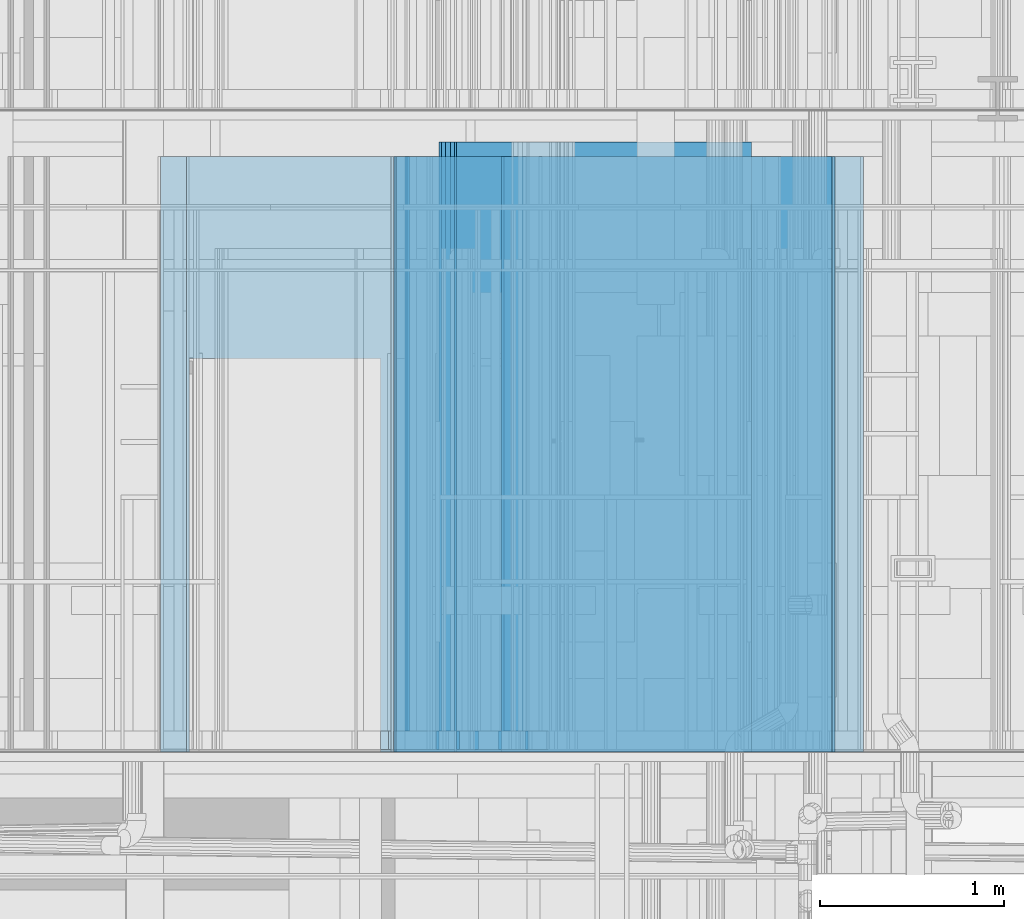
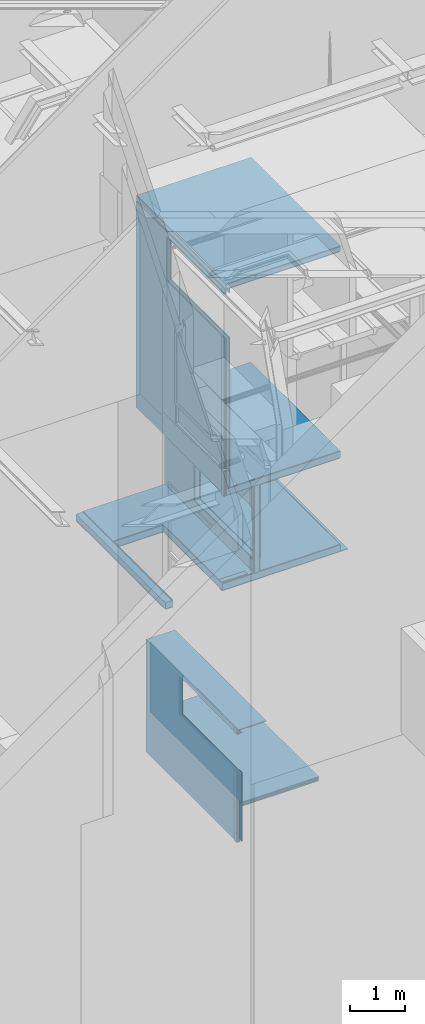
# One storey, part 67 of 583: 33 building element parts, 7 openings, 8 elements without a shape of their own.
"""IFC2X3 building model written with IfcOpenShell, lengths in metres."""

from ifc_helpers import new_model, entity, si_unit, converted_unit, derived_unit, money_unit, direction, frame, frame_2d, origin_with_axes, place, context, subcontext, project, spatial, polyline, rectangle, outline, extrude, material, type_object, element, aggregate, save


model = new_model("IFC2X3")

# Units and contexts
model_context = context("Model", 3, precision=1e-05, world=origin_with_axes(), true_north=direction((0.0, 1.0)))
body_context = subcontext(model_context, "Body", "Model", "MODEL_VIEW", scale=1.0)
ifc_project = project(units=[si_unit("LENGTHUNIT", "METRE"), si_unit("AREAUNIT", "SQUARE_METRE"), si_unit("VOLUMEUNIT", "CUBIC_METRE"), si_unit("ABSORBEDDOSEUNIT", "GRAY"), si_unit("AMOUNTOFSUBSTANCEUNIT", "MOLE"), si_unit("DOSEEQUIVALENTUNIT", "SIEVERT"), si_unit("ELECTRICCAPACITANCEUNIT", "FARAD"), si_unit("ELECTRICCHARGEUNIT", "COULOMB"), si_unit("ELECTRICCONDUCTANCEUNIT", "SIEMENS"), si_unit("ELECTRICCURRENTUNIT", "AMPERE"), si_unit("ELECTRICRESISTANCEUNIT", "OHM"), si_unit("ELECTRICVOLTAGEUNIT", "VOLT"), si_unit("ENERGYUNIT", "JOULE"), si_unit("FORCEUNIT", "NEWTON"), si_unit("FREQUENCYUNIT", "HERTZ"), si_unit("ILLUMINANCEUNIT", "LUX"), si_unit("INDUCTANCEUNIT", "HENRY"), si_unit("LUMINOUSFLUXUNIT", "LUMEN"), si_unit("LUMINOUSINTENSITYUNIT", "CANDELA"), si_unit("MAGNETICFLUXDENSITYUNIT", "TESLA"), si_unit("MAGNETICFLUXUNIT", "WEBER"), si_unit("MASSUNIT", "GRAM"), converted_unit("PLANEANGLEUNIT", "degree", entity("IfcReal", 0.0174532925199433), si_unit("PLANEANGLEUNIT", "RADIAN"), dimensions=[0, 0, 0, 0, 0, 0, 0]), si_unit("POWERUNIT", "WATT"), si_unit("PRESSUREUNIT", "PASCAL"), si_unit("RADIOACTIVITYUNIT", "BECQUEREL"), si_unit("SOLIDANGLEUNIT", "STERADIAN"), si_unit("THERMODYNAMICTEMPERATUREUNIT", "KELVIN"), si_unit("TIMEUNIT", "SECOND"), derived_unit("ACCELERATIONUNIT", [(si_unit("LENGTHUNIT", "METRE"), 1), (si_unit("TIMEUNIT", "SECOND"), -2)]), derived_unit("ANGULARVELOCITYUNIT", [(converted_unit("PLANEANGLEUNIT", "degree", entity("IfcReal", 0.0174532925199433), si_unit("PLANEANGLEUNIT", "RADIAN"), dimensions=[0, 0, 0, 0, 0, 0, 0]), 1), (si_unit("TIMEUNIT", "SECOND"), -1)]), derived_unit("CURVATUREUNIT", [(converted_unit("PLANEANGLEUNIT", "degree", entity("IfcReal", 0.0174532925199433), si_unit("PLANEANGLEUNIT", "RADIAN"), dimensions=[0, 0, 0, 0, 0, 0, 0]), 1), (si_unit("LENGTHUNIT", "METRE"), -1)]), derived_unit("DYNAMICVISCOSITYUNIT", [(si_unit("PRESSUREUNIT", "PASCAL"), 1), (si_unit("TIMEUNIT", "SECOND"), 1)]), derived_unit("HEATFLUXDENSITYUNIT", [(si_unit("POWERUNIT", "WATT"), 1), (si_unit("LENGTHUNIT", "METRE"), -2)]), derived_unit("HEATINGVALUEUNIT", [(si_unit("ENERGYUNIT", "JOULE"), 1), (si_unit("MASSUNIT", "GRAM"), -1)]), derived_unit("INTEGERCOUNTRATEUNIT", [(si_unit("TIMEUNIT", "SECOND"), -1)]), derived_unit("IONCONCENTRATIONUNIT", [(si_unit("MASSUNIT", "GRAM"), 1), (si_unit("VOLUMEUNIT", "CUBIC_METRE"), -1)]), derived_unit("ISOTHERMALMOISTURECAPACITYUNIT", [(si_unit("VOLUMEUNIT", "CUBIC_METRE"), 1), (si_unit("MASSUNIT", "GRAM"), -1)]), derived_unit("KINEMATICVISCOSITYUNIT", [(si_unit("AREAUNIT", "SQUARE_METRE"), 1), (si_unit("TIMEUNIT", "SECOND"), -1)]), derived_unit("LINEARFORCEUNIT", [(si_unit("FORCEUNIT", "NEWTON"), 1), (si_unit("LENGTHUNIT", "METRE"), -1)]), derived_unit("LINEARMOMENTUNIT", [(si_unit("FORCEUNIT", "NEWTON"), 1), (si_unit("LENGTHUNIT", "METRE"), -1)]), derived_unit("LINEARSTIFFNESSUNIT", [(si_unit("FORCEUNIT", "NEWTON"), 1), (si_unit("LENGTHUNIT", "METRE"), -1)]), derived_unit("LINEARVELOCITYUNIT", [(si_unit("LENGTHUNIT", "METRE"), 1), (si_unit("TIMEUNIT", "SECOND"), -1)]), derived_unit("LUMINOUSINTENSITYDISTRIBUTIONUNIT", [(si_unit("LUMINOUSINTENSITYUNIT", "CANDELA"), 1), (si_unit("LUMINOUSFLUXUNIT", "LUMEN"), -1)]), derived_unit("MASSDENSITYUNIT", [(si_unit("MASSUNIT", "GRAM"), 1), (si_unit("VOLUMEUNIT", "CUBIC_METRE"), -1)]), derived_unit("MASSFLOWRATEUNIT", [(si_unit("MASSUNIT", "GRAM"), 1), (si_unit("TIMEUNIT", "SECOND"), -1)]), derived_unit("MASSPERLENGTHUNIT", [(si_unit("MASSUNIT", "GRAM"), 1), (si_unit("LENGTHUNIT", "METRE"), -1)]), derived_unit("MODULUSOFELASTICITYUNIT", [(si_unit("FORCEUNIT", "NEWTON"), 1), (si_unit("AREAUNIT", "SQUARE_METRE"), -1)]), derived_unit("MODULUSOFLINEARSUBGRADEREACTIONUNIT", [(si_unit("FORCEUNIT", "NEWTON"), 1), (si_unit("LENGTHUNIT", "METRE"), -2)]), derived_unit("MODULUSOFROTATIONALSUBGRADEREACTIONUNIT", [(si_unit("FORCEUNIT", "NEWTON"), 1), (si_unit("LENGTHUNIT", "METRE"), 1)]), derived_unit("MODULUSOFSUBGRADEREACTIONUNIT", [(si_unit("FORCEUNIT", "NEWTON"), 1), (si_unit("VOLUMEUNIT", "CUBIC_METRE"), -1)]), derived_unit("MOISTUREDIFFUSIVITYUNIT", [(si_unit("VOLUMEUNIT", "CUBIC_METRE"), 1), (si_unit("TIMEUNIT", "SECOND"), -1)]), derived_unit("MOLECULARWEIGHTUNIT", [(si_unit("MASSUNIT", "GRAM"), 1), (si_unit("AMOUNTOFSUBSTANCEUNIT", "MOLE"), -1)]), derived_unit("PLANARFORCEUNIT", [(si_unit("FORCEUNIT", "NEWTON"), 1), (si_unit("LENGTHUNIT", "METRE"), -2)]), derived_unit("ROTATIONALFREQUENCYUNIT", [(si_unit("TIMEUNIT", "SECOND"), -1)]), derived_unit("ROTATIONALMASSUNIT", [(si_unit("MASSUNIT", "GRAM"), 1), (si_unit("LENGTHUNIT", "METRE"), 2)]), derived_unit("ROTATIONALSTIFFNESSUNIT", [(si_unit("FORCEUNIT", "NEWTON"), 1), (si_unit("LENGTHUNIT", "METRE"), 1), (converted_unit("PLANEANGLEUNIT", "degree", entity("IfcReal", 0.0174532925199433), si_unit("PLANEANGLEUNIT", "RADIAN"), dimensions=[0, 0, 0, 0, 0, 0, 0]), -1)]), derived_unit("SECTIONAREAINTEGRALUNIT", [(si_unit("LENGTHUNIT", "METRE"), 5)]), derived_unit("SECTIONMODULUSUNIT", [(si_unit("LENGTHUNIT", "METRE"), 3)]), derived_unit("SHEARMODULUSUNIT", [(si_unit("FORCEUNIT", "NEWTON"), 1), (si_unit("AREAUNIT", "SQUARE_METRE"), -1)]), derived_unit("SOUNDPOWERUNIT", [(si_unit("ENERGYUNIT", "JOULE"), 1), (si_unit("TIMEUNIT", "SECOND"), -1)]), derived_unit("SPECIFICHEATCAPACITYUNIT", [(si_unit("FORCEUNIT", "NEWTON"), 1), (si_unit("MASSUNIT", "GRAM"), -1), (si_unit("THERMODYNAMICTEMPERATUREUNIT", "KELVIN"), -1)]), derived_unit("TEMPERATUREGRADIENTUNIT", [(si_unit("THERMODYNAMICTEMPERATUREUNIT", "KELVIN"), 1), (si_unit("LENGTHUNIT", "METRE"), -1)]), derived_unit("THERMALADMITTANCEUNIT", [(si_unit("POWERUNIT", "WATT"), 1), (si_unit("AREAUNIT", "SQUARE_METRE"), -1), (si_unit("THERMODYNAMICTEMPERATUREUNIT", "KELVIN"), -1)]), derived_unit("THERMALCONDUCTANCEUNIT", [(si_unit("POWERUNIT", "WATT"), 1), (si_unit("LENGTHUNIT", "METRE"), -1), (si_unit("THERMODYNAMICTEMPERATUREUNIT", "KELVIN"), -1)]), derived_unit("THERMALEXPANSIONCOEFFICIENTUNIT", [(si_unit("THERMODYNAMICTEMPERATUREUNIT", "KELVIN"), -1)]), derived_unit("THERMALRESISTANCEUNIT", [(si_unit("AREAUNIT", "SQUARE_METRE"), 1), (si_unit("POWERUNIT", "WATT"), -1)]), derived_unit("THERMALTRANSMITTANCEUNIT", [(si_unit("POWERUNIT", "WATT"), 1), (si_unit("AREAUNIT", "SQUARE_METRE"), -1), (si_unit("THERMODYNAMICTEMPERATUREUNIT", "KELVIN"), -1)]), derived_unit("TORQUEUNIT", [(si_unit("FORCEUNIT", "NEWTON"), 1), (si_unit("LENGTHUNIT", "METRE"), 1)]), derived_unit("VAPORPERMEABILITYUNIT", [(si_unit("MASSUNIT", "GRAM"), 1), (si_unit("TIMEUNIT", "SECOND"), -1)]), derived_unit("VOLUMETRICFLOWRATEUNIT", [(si_unit("VOLUMEUNIT", "CUBIC_METRE"), 1), (si_unit("TIMEUNIT", "SECOND"), -1)]), derived_unit("WARPINGCONSTANTUNIT", [(si_unit("LENGTHUNIT", "METRE"), 6)]), derived_unit("WARPINGMOMENTUNIT", [(si_unit("FORCEUNIT", "NEWTON"), 1), (si_unit("LENGTHUNIT", "METRE"), 2)]), money_unit("GBP")], contexts=[model_context])

# Site, building, storey
site_placement = place(None, origin_with_axes())
site = spatial("IfcSite", under=ifc_project, at=site_placement, Name="Site", CompositionType="ELEMENT")
building_placement = place(site_placement, origin_with_axes())
building = spatial("IfcBuilding", under=site, at=building_placement, Name="Building01", CompositionType="ELEMENT")
storey_placement = place(building_placement, frame((0.0, 0.0, 20.78), z_axis=(0.0, 0.0, 1.0), x_axis=(1.0, 0.0, 0.0)))
storey = spatial("IfcBuildingStorey", under=building, at=storey_placement, Name="RL", CompositionType="ELEMENT", Elevation=20.78)

# Wall, openings, building element parts
wall_type_1 = type_object("IfcWallType", Name="SHE_A-Walls_Type03a_BlockworkWall_170mm", PredefinedType="NOTDEFINED")
wall_1_placement = place(storey_placement, frame((8.665, 5.15, -11.705), z_axis=(0.0, 1.0, 0.0), x_axis=(-1.0, 0.0, 0.0)))
wall_1 = element("IfcWall", 1, at=wall_1_placement, inside=storey, type_object=wall_type_1, Name="4B", ObjectType="SHE_A-Walls_Type03a_BlockworkWall_170mm")
opening_1_placement = place(wall_1_placement, frame((2.527281, 0.175, 0.0), z_axis=(0.0, 0.0, 1.0), x_axis=(1.0, 0.0, 0.0)))
element("IfcOpeningElement", 2, at=opening_1_placement, cuts=wall_1, Name="Opening", ObjectType="Opening", context=body_context, shape_type="SweptSolid", body=[
    extrude(rectangle(XDim=0.984, YDim=2.142, at=frame_2d((-0.492, 1.071), x_axis=(1.0, 0.0))), frame((0.0, -5.388555, 0.0), z_axis=(0.0, 1.0, 0.0), x_axis=(-1.0, 0.0, 0.0)), (0.0, 0.0, 1.0), 10.777109),
])
opening_2_placement = place(wall_1_placement, frame((2.473, 0.155, 0.0), z_axis=(0.0, 0.0, 1.0), x_axis=(1.0, 0.0, 0.0)))
element("IfcOpeningElement", 3, at=opening_2_placement, cuts=wall_1, Name="Opening", ObjectType="Opening", context=body_context, shape_type="SweptSolid", body=[
    extrude(rectangle(XDim=2.142, YDim=0.984, at=frame_2d((-0.492, 1.071), x_axis=(0.0, -1.0))), frame((0.0, -5.387814, 0.0), z_axis=(0.0, 1.0, 0.0), x_axis=(-1.0, 0.0, 0.0)), (0.0, 0.0, 1.0), 10.775627),
])
ifc_material_1 = material(Name="A_BSUK_WallsInternal_Block")
placement_1 = place(wall_1_placement, origin_with_axes())
building_element_part_1 = element("IfcBuildingElementPart", 4, at=placement_1, material=ifc_material_1, Name="1", context=body_context, shape_type="SweptSolid", body=[
    extrude(rectangle(XDim=3.67, YDim=0.14, at=frame_2d((1.835, 0.07), x_axis=(-1.0, 0.0))), origin_with_axes(), (0.0, 0.0, 1.0), 3.24),
])
ifc_material_2 = material(Name="A_BSUK_Walls_Timber")
building_element_part_2 = element("IfcBuildingElementPart", 5, at=placement_1, material=ifc_material_2, Name="2", context=body_context, shape_type="SweptSolid", body=[
    extrude(outline(polyline([(3.5, 0.17), (1.940919, 0.17), (1.955919, 0.155), (3.5, 0.155), (3.5, 0.17)])), frame((0.0, 0.0, 0.015), z_axis=(0.0, 0.0, 1.0), x_axis=(1.0, 0.0, 0.0)), (0.0, 0.0, 1.0), 0.1),
])
ifc_material_3 = material(Name="A_BSUK_WallInternal_Finishes_Plaster")
building_element_part_3 = element("IfcBuildingElementPart", 6, at=placement_1, material=ifc_material_3, Name="3", context=body_context, shape_type="SweptSolid", body=[
    extrude(rectangle(XDim=1.67, YDim=0.015, at=frame_2d((0.85, 0.1475), x_axis=(-1.0, 0.0))), origin_with_axes(), (0.0, 0.0, 1.0), 3.24),
])
ifc_material_4 = material(Name="A_BSUK_WallInternal_Finishes_Plasterboard")
building_element_part_4 = element("IfcBuildingElementPart", 7, at=placement_1, material=ifc_material_4, Name="4", context=body_context, shape_type="SweptSolid", body=[
    extrude(rectangle(XDim=3.825, YDim=0.015, at=frame_2d((1.7575, -0.0075), x_axis=(-1.0, 0.0))), origin_with_axes(), (0.0, 0.0, 1.0), 3.24),
])
building_element_part_5 = element("IfcBuildingElementPart", 8, at=placement_1, material=ifc_material_2, Name="5", context=body_context, shape_type="SweptSolid", body=[
    extrude(rectangle(XDim=1.883405, YDim=0.015, at=frame_2d((2.503298, -0.0225), x_axis=(-1.0, 0.0))), frame((0.0, 0.0, 0.015), z_axis=(0.0, 0.0, 1.0), x_axis=(1.0, 0.0, 0.0)), (0.0, 0.0, 1.0), 0.1),
])
building_element_part_6 = element("IfcBuildingElementPart", 9, at=placement_1, material=ifc_material_3, Name="6", context=body_context, shape_type="SweptSolid", body=[
    extrude(rectangle(XDim=1.715, YDim=0.015, at=frame_2d((2.6725, 0.1475), x_axis=(-1.0, 0.0))), origin_with_axes(), (0.0, 0.0, 1.0), 3.24),
])
aggregate(wall_1, [building_element_part_1, building_element_part_2, building_element_part_3, building_element_part_4, building_element_part_5, building_element_part_6])

wall_type_2 = type_object("IfcWallType", Name="SHE_A-Walls_Type04a_BlockworkWall_130mm", PredefinedType="NOTDEFINED")
wall_2_placement = place(storey_placement, frame((6.965, 5.15, -9.635), z_axis=(0.0, 1.0, 0.0), x_axis=(0.0, 0.0, -1.0)))
wall_2 = element("IfcWall", 10, at=wall_2_placement, inside=storey, type_object=wall_type_2, Name="4A", ObjectType="SHE_A-Walls_Type04a_BlockworkWall_130mm")
opening_3_placement = place(wall_2_placement, frame((0.553302, 0.286454, 0.03), z_axis=(0.0, 0.0, 1.0), x_axis=(1.0, 0.0, 0.0)))
element("IfcOpeningElement", 11, at=opening_3_placement, cuts=wall_2, Name="Opening", ObjectType="Opening", context=body_context, shape_type="SweptSolid", body=[
    extrude(rectangle(XDim=2.14, YDim=1.08, at=frame_2d((-0.54, 1.07), x_axis=(0.0, -1.0))), frame((0.0, -4.229233, 0.0), z_axis=(0.0, 1.0, 0.0), x_axis=(-1.0, 0.0, 0.0)), (0.0, 0.0, 1.0), 8.458465),
])
opening_4_placement = place(wall_2_placement, frame((0.5, 0.14, 0.03), z_axis=(0.0, 0.0, 1.0), x_axis=(1.0, 0.0, 0.0)))
element("IfcOpeningElement", 12, at=opening_4_placement, cuts=wall_2, Name="Opening", ObjectType="Opening", context=body_context, shape_type="SweptSolid", body=[
    extrude(rectangle(XDim=2.14, YDim=1.08, at=frame_2d((-0.54, 1.07), x_axis=(0.0, -1.0))), frame((0.0, -4.131701, 0.0), z_axis=(0.0, 1.0, 0.0), x_axis=(-1.0, 0.0, 0.0)), (0.0, 0.0, 1.0), 8.263402),
])
placement_2 = place(wall_2_placement, origin_with_axes())
building_element_part_7 = element("IfcBuildingElementPart", 13, at=placement_2, material=ifc_material_1, Name="1", context=body_context, shape_type="SweptSolid", body=[
    extrude(rectangle(XDim=1.93, YDim=0.1, at=frame_2d((0.965, 0.05), x_axis=(-1.0, 0.0))), origin_with_axes(), (0.0, 0.0, 1.0), 3.24),
])
building_element_part_8 = element("IfcBuildingElementPart", 14, at=placement_2, material=ifc_material_2, Name="2", context=body_context, shape_type="SweptSolid", body=[
    extrude(outline(polyline([(1.9, 0.13), (0.03, 0.13), (0.015, 0.115), (1.9, 0.115), (1.9, 0.13)])), frame((0.0, 0.0, 0.015), z_axis=(0.0, 0.0, 1.0), x_axis=(1.0, 0.0, 0.0)), (0.0, 0.0, 1.0), 0.1),
])
building_element_part_9 = element("IfcBuildingElementPart", 15, at=placement_2, material=ifc_material_3, Name="3", context=body_context, shape_type="SweptSolid", body=[
    extrude(outline(polyline([(1.93, 0.115), (0.015, 0.115), (0.0, 0.1), (1.93, 0.1), (1.93, 0.115)])), origin_with_axes(), (0.0, 0.0, 1.0), 3.24),
])
building_element_part_10 = element("IfcBuildingElementPart", 16, at=placement_2, material=ifc_material_4, Name="4", context=body_context, shape_type="SweptSolid", body=[
    extrude(outline(polyline([(1.93, 0.0), (0.0, 0.0), (0.015, -0.015), (1.93, -0.015), (1.93, 0.0)])), origin_with_axes(), (0.0, 0.0, 1.0), 3.24),
])
building_element_part_11 = element("IfcBuildingElementPart", 17, at=placement_2, material=ifc_material_2, Name="5", context=body_context, shape_type="SweptSolid", body=[
    extrude(outline(polyline([(0.0, -0.015), (0.015, -0.03), (1.633302, -0.03), (1.633302, -0.015), (0.0, -0.015)])), frame((0.0, 0.0, 0.015), z_axis=(0.0, 0.0, 1.0), x_axis=(1.0, 0.0, 0.0)), (0.0, 0.0, 1.0), 0.1),
])
aggregate(wall_2, [building_element_part_7, building_element_part_8, building_element_part_9, building_element_part_10, building_element_part_11])

# Wall, building element parts
wall_3_placement = place(storey_placement, frame((6.275, 5.15, -9.635), z_axis=(0.0, 1.0, 0.0), x_axis=(1.0, 0.0, 0.0)))
wall_3 = element("IfcWall", 18, at=wall_3_placement, inside=storey, type_object=wall_type_1, Name="4B", ObjectType="SHE_A-Walls_Type03a_BlockworkWall_170mm")
placement_3 = place(wall_3_placement, origin_with_axes())
building_element_part_12 = element("IfcBuildingElementPart", 19, at=placement_3, material=ifc_material_1, Name="1", context=body_context, shape_type="SweptSolid", body=[
    extrude(rectangle(XDim=2.39, YDim=0.14, at=frame_2d((1.195, -0.07), x_axis=(-1.0, 0.0))), origin_with_axes(), (0.0, 0.0, 1.0), 3.24),
])
building_element_part_13 = element("IfcBuildingElementPart", 20, at=placement_3, material=ifc_material_4, Name="4", context=body_context, shape_type="SweptSolid", body=[
    extrude(rectangle(XDim=2.375, YDim=0.015, at=frame_2d((1.1875, -0.1475), x_axis=(-1.0, 0.0))), origin_with_axes(), (0.0, 0.0, 1.0), 3.24),
])
building_element_part_14 = element("IfcBuildingElementPart", 21, at=placement_3, material=ifc_material_3, Name="6", context=body_context, shape_type="SweptSolid", body=[
    extrude(outline(polyline([(2.375, 0.015), (0.705, 0.015), (0.69, 0.0), (2.375, 0.0), (2.375, 0.015)])), origin_with_axes(), (0.0, 0.0, 1.0), 3.24),
])
aggregate(wall_3, [building_element_part_12, building_element_part_13, building_element_part_14])

wall_type_3 = type_object("IfcWallType", Name="SHE_A-Walls_Type05a_Partition_95mm_tall", PredefinedType="NOTDEFINED")
wall_4_placement = place(storey_placement, frame((6.571475, 5.15, -16.57427), z_axis=(0.0, 1.0, 0.0), x_axis=(1.0, 0.0, 0.0)))
wall_4 = element("IfcWall", 22, at=wall_4_placement, inside=storey, type_object=wall_type_3, Name="5A", ObjectType="SHE_A-Walls_Type05a_Partition_95mm_tall")
ifc_material_5 = material(Name="A_BSUK_Insulation")
placement_4 = place(wall_4_placement, origin_with_axes())
building_element_part_15 = element("IfcBuildingElementPart", 23, at=placement_4, material=ifc_material_5, Name="1", context=body_context, shape_type="SweptSolid", body=[
    extrude(rectangle(XDim=1.639195, YDim=0.025, at=frame_2d((0.819597, 0.0125), x_axis=(-1.0, 0.0))), origin_with_axes(), (0.0, 0.0, 1.0), 3.32),
])
building_element_part_16 = element("IfcBuildingElementPart", 24, at=placement_4, material=ifc_material_4, Name="4", context=body_context, shape_type="SweptSolid", body=[
    extrude(rectangle(XDim=1.604195, YDim=0.012, at=frame_2d((0.837097, 0.054), x_axis=(-1.0, 0.0))), origin_with_axes(), (0.0, 0.0, 1.0), 3.32),
])
building_element_part_17 = element("IfcBuildingElementPart", 25, at=placement_4, material=ifc_material_4, Name="5", context=body_context, shape_type="SweptSolid", body=[
    extrude(rectangle(XDim=1.604195, YDim=0.012, at=frame_2d((0.837097, -0.029), x_axis=(-1.0, 0.0))), origin_with_axes(), (0.0, 0.0, 1.0), 3.32),
])
aggregate(wall_4, [building_element_part_15, building_element_part_16, building_element_part_17])

wall_5_placement = place(storey_placement, frame((8.665, 5.15, -5.065), z_axis=(0.0, 1.0, 0.0), x_axis=(-1.0, 0.0, 0.0)))
wall_5 = element("IfcWall", 26, at=wall_5_placement, inside=storey, type_object=wall_type_2, Name="4A", ObjectType="SHE_A-Walls_Type04a_BlockworkWall_130mm")
placement_5 = place(wall_5_placement, origin_with_axes())
building_element_part_18 = element("IfcBuildingElementPart", 27, at=placement_5, material=ifc_material_1, Name="1", context=body_context, shape_type="SweptSolid", body=[
    extrude(rectangle(XDim=2.4, YDim=0.1, at=frame_2d((1.2, 0.05), x_axis=(-1.0, 0.0))), origin_with_axes(), (0.0, 0.0, 1.0), 3.24),
])
building_element_part_19 = element("IfcBuildingElementPart", 28, at=placement_5, material=ifc_material_3, Name="3", context=body_context, shape_type="SweptSolid", body=[
    extrude(rectangle(XDim=0.015, YDim=2.4, at=frame_2d((1.2, 0.1075), x_axis=(0.0, -1.0))), origin_with_axes(), (0.0, 0.0, 1.0), 3.24),
])
building_element_part_20 = element("IfcBuildingElementPart", 29, at=placement_5, material=ifc_material_4, Name="4", context=body_context, shape_type="SweptSolid", body=[
    extrude(rectangle(XDim=2.385, YDim=0.015, at=frame_2d((1.2075, -0.0075), x_axis=(-1.0, 0.0))), origin_with_axes(), (0.0, 0.0, 1.0), 3.24),
])
aggregate(wall_5, [building_element_part_18, building_element_part_19, building_element_part_20])

# Wall, openings, building element parts
wall_6_placement = place(storey_placement, frame((6.571475, 5.15, -14.950331), z_axis=(0.0, 1.0, 0.0), x_axis=(0.0, 0.0, -1.0)))
wall_6 = element("IfcWall", 30, at=wall_6_placement, inside=storey, type_object=wall_type_3, Name="5A", ObjectType="SHE_A-Walls_Type05a_Partition_95mm_tall")
opening_5_placement = place(wall_6_placement, frame((0.058581, -0.115, -0.015), z_axis=(0.0, 0.0, 1.0), x_axis=(1.0, 0.0, 0.0)))
element("IfcOpeningElement", 31, at=opening_5_placement, cuts=wall_6, Name="Opening", ObjectType="Opening", context=body_context, shape_type="SweptSolid", body=[
    extrude(rectangle(XDim=0.834, YDim=2.142, at=frame_2d((0.417, 1.071), x_axis=(-1.0, 0.0))), frame((0.0, 0.21, 0.0), z_axis=(0.0, -1.0, 0.0), x_axis=(1.0, 0.0, 0.0)), (0.0, 0.0, 1.0), 0.42),
])
opening_6_placement = place(wall_6_placement, frame((0.108581, -0.035, 0.0), z_axis=(0.0, 0.0, 1.0), x_axis=(1.0, 0.0, 0.0)))
element("IfcOpeningElement", 32, at=opening_6_placement, cuts=wall_6, Name="Opening", ObjectType="Opening", context=body_context, shape_type="SweptSolid", body=[
    extrude(rectangle(XDim=2.142, YDim=0.834, at=frame_2d((0.417, 1.071), x_axis=(0.0, -1.0))), frame((0.0, 0.09, 0.0), z_axis=(0.0, -1.0, 0.0), x_axis=(1.0, 0.0, 0.0)), (0.0, 0.0, 1.0), 0.18),
])
placement_6 = place(wall_6_placement, origin_with_axes())
building_element_part_21 = element("IfcBuildingElementPart", 33, at=placement_6, material=ifc_material_5, Name="1", context=body_context, shape_type="SweptSolid", body=[
    extrude(rectangle(XDim=0.025, YDim=2.458939, at=frame_2d((1.229469, 0.0125), x_axis=(0.0, -1.0))), origin_with_axes(), (0.0, 0.0, 1.0), 3.32),
])
building_element_part_22 = element("IfcBuildingElementPart", 34, at=placement_6, material=ifc_material_2, Name="2", context=body_context, shape_type="SweptSolid", body=[
    extrude(outline(polyline([(-0.05, 0.075), (-0.035, 0.06), (2.458939, 0.06), (2.458939, 0.075), (-0.05, 0.075)])), frame((0.0, 0.0, 0.015), z_axis=(0.0, 0.0, 1.0), x_axis=(1.0, 0.0, 0.0)), (0.0, 0.0, 1.0), 0.1),
])
building_element_part_23 = element("IfcBuildingElementPart", 35, at=placement_6, material=ifc_material_2, Name="3", context=body_context, shape_type="SweptSolid", body=[
    extrude(outline(polyline([(1.588939, -0.035), (0.06, -0.035), (0.075, -0.05), (1.588939, -0.05), (1.588939, -0.035)])), frame((0.0, 0.0, 0.015), z_axis=(0.0, 0.0, 1.0), x_axis=(1.0, 0.0, 0.0)), (0.0, 0.0, 1.0), 0.1),
])
building_element_part_24 = element("IfcBuildingElementPart", 36, at=placement_6, material=ifc_material_2, Name="4", context=body_context, shape_type="SweptSolid", body=[
    extrude(outline(polyline([(0.06, -0.035), (0.075, -0.05), (2.458939, -0.05), (2.458939, -0.035), (0.06, -0.035)])), frame((0.0, 0.0, 0.015), z_axis=(0.0, 0.0, 1.0), x_axis=(1.0, 0.0, 0.0)), (0.0, 0.0, 1.0), 0.1),
])
building_element_part_25 = element("IfcBuildingElementPart", 37, at=placement_6, material=ifc_material_4, Name="5", context=body_context, shape_type="SweptSolid", body=[
    extrude(outline(polyline([(-0.035, 0.06), (-0.023, 0.048), (2.458939, 0.048), (2.458939, 0.06), (-0.035, 0.06)])), origin_with_axes(), (0.0, 0.0, 1.0), 3.32),
])
building_element_part_26 = element("IfcBuildingElementPart", 38, at=placement_6, material=ifc_material_4, Name="6", context=body_context, shape_type="SweptSolid", body=[
    extrude(outline(polyline([(1.600939, -0.023), (0.048, -0.023), (0.06, -0.035), (1.600939, -0.035), (1.600939, -0.023)])), origin_with_axes(), (0.0, 0.0, 1.0), 3.32),
])
building_element_part_27 = element("IfcBuildingElementPart", 39, at=placement_6, material=ifc_material_4, Name="7", context=body_context, shape_type="SweptSolid", body=[
    extrude(outline(polyline([(0.048, -0.023), (0.06, -0.035), (2.458939, -0.035), (2.458939, -0.023), (0.048, -0.023)])), origin_with_axes(), (0.0, 0.0, 1.0), 3.32),
])
aggregate(wall_6, [building_element_part_21, building_element_part_22, building_element_part_23, building_element_part_24, building_element_part_25, building_element_part_26, building_element_part_27])

# Wall, building element part
wall_7_placement = place(storey_placement, frame((6.571475, 5.15, -14.975331), z_axis=(0.0, 1.0, 0.0), x_axis=(1.0, 0.0, 0.0)))
wall_7 = element("IfcWall", 40, at=wall_7_placement, inside=storey, type_object=wall_type_3, Name="5A", ObjectType="SHE_A-Walls_Type05a_Partition_95mm_tall")
building_element_part_28_placement = place(wall_7_placement, origin_with_axes())
building_element_part_28 = element("IfcBuildingElementPart", 41, at=building_element_part_28_placement, material=ifc_material_4, Name="4", context=body_context, shape_type="SweptSolid", body=[
    extrude(outline(polyline([(0.552, -0.048), (-0.048, -0.048), (-0.06, -0.06), (0.54, -0.06), (0.552, -0.048)])), origin_with_axes(), (0.0, 0.0, 1.0), 3.32),
])
aggregate(wall_7, [building_element_part_28])

# Wall, opening, building element parts
wall_type_4 = type_object("IfcWallType", Name="SHE_A-Walls_Type03c_Firewall_F120_100mm", PredefinedType="NOTDEFINED")
wall_8_placement = place(storey_placement, frame((6.25, 5.165, -9.665), z_axis=(0.0, 1.0, 0.0), x_axis=(0.0, 0.0, 1.0)))
wall_8 = element("IfcWall", 42, at=wall_8_placement, inside=storey, type_object=wall_type_4, Name="3C", ObjectType="SHE_A-Walls_Type03c_Firewall_F120_100mm")
opening_7_placement = place(wall_8_placement, frame((3.501, 0.2, -0.03), z_axis=(0.0, 0.0, 1.0), x_axis=(1.0, 0.0, 0.0)))
element("IfcOpeningElement", 43, at=opening_7_placement, cuts=wall_8, Name="Opening", ObjectType="Opening", context=body_context, shape_type="SweptSolid", body=[
    extrude(rectangle(XDim=0.984, YDim=2.142, at=frame_2d((-0.492, 1.071), x_axis=(1.0, 0.0))), frame((0.0, -5.384541, 0.0), z_axis=(0.0, 1.0, 0.0), x_axis=(-1.0, 0.0, 0.0)), (0.0, 0.0, 1.0), 10.769082),
])
placement_7 = place(wall_8_placement, origin_with_axes())
building_element_part_29 = element("IfcBuildingElementPart", 44, at=placement_7, material=ifc_material_2, Name="1", context=body_context, shape_type="SweptSolid", body=[
    extrude(outline(polyline([(4.585, 0.0), (0.0, 0.0), (0.0, -0.015), (4.57, -0.015), (4.585, 0.0)])), origin_with_axes(), (0.0, 0.0, 1.0), 0.1),
])
building_element_part_30 = element("IfcBuildingElementPart", 45, at=placement_7, material=ifc_material_4, Name="2", context=body_context, shape_type="SweptSolid", body=[
    extrude(rectangle(XDim=4.555, YDim=0.013, at=frame_2d((2.3075, 0.0065), x_axis=(-1.0, 0.0))), frame((0.0, 0.0, -0.015), z_axis=(0.0, 0.0, 1.0), x_axis=(1.0, 0.0, 0.0)), (0.0, 0.0, 1.0), 3.24),
])
building_element_part_31 = element("IfcBuildingElementPart", 46, at=placement_7, material=ifc_material_4, Name="3", context=body_context, shape_type="SweptSolid", body=[
    extrude(rectangle(XDim=4.4, YDim=0.013, at=frame_2d((2.385, 0.0935), x_axis=(-1.0, 0.0))), frame((0.0, 0.0, -0.015), z_axis=(0.0, 0.0, 1.0), x_axis=(1.0, 0.0, 0.0)), (0.0, 0.0, 1.0), 3.24),
])
building_element_part_32 = element("IfcBuildingElementPart", 47, at=placement_7, material=ifc_material_4, Name="4", context=body_context, shape_type="SweptSolid", body=[
    extrude(rectangle(XDim=4.555, YDim=0.012, at=frame_2d((2.3075, 0.019), x_axis=(-1.0, 0.0))), frame((0.0, 0.0, -0.015), z_axis=(0.0, 0.0, 1.0), x_axis=(1.0, 0.0, 0.0)), (0.0, 0.0, 1.0), 3.24),
])
building_element_part_33 = element("IfcBuildingElementPart", 48, at=placement_7, material=ifc_material_4, Name="5", context=body_context, shape_type="SweptSolid", body=[
    extrude(rectangle(XDim=4.4, YDim=0.012, at=frame_2d((2.385, 0.081), x_axis=(-1.0, 0.0))), frame((0.0, 0.0, -0.015), z_axis=(0.0, 0.0, 1.0), x_axis=(1.0, 0.0, 0.0)), (0.0, 0.0, 1.0), 3.24),
])
aggregate(wall_8, [building_element_part_29, building_element_part_30, building_element_part_31, building_element_part_32, building_element_part_33])

save(model, "model.ifc")
